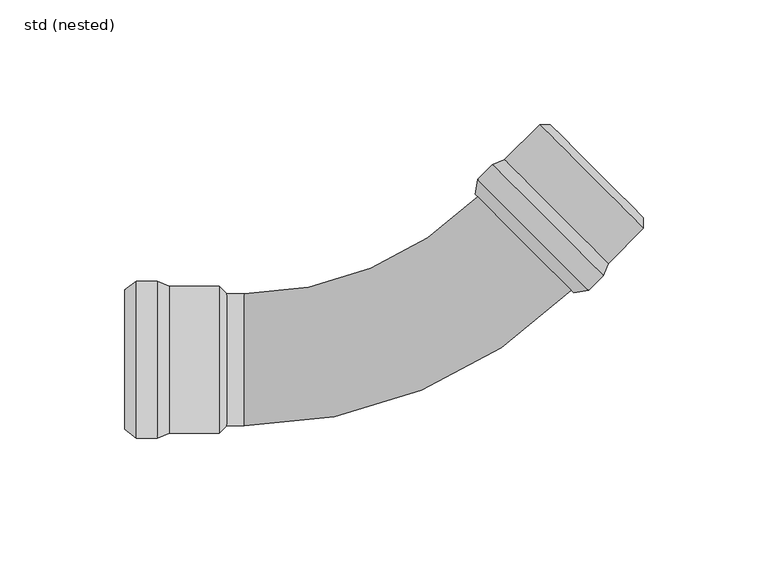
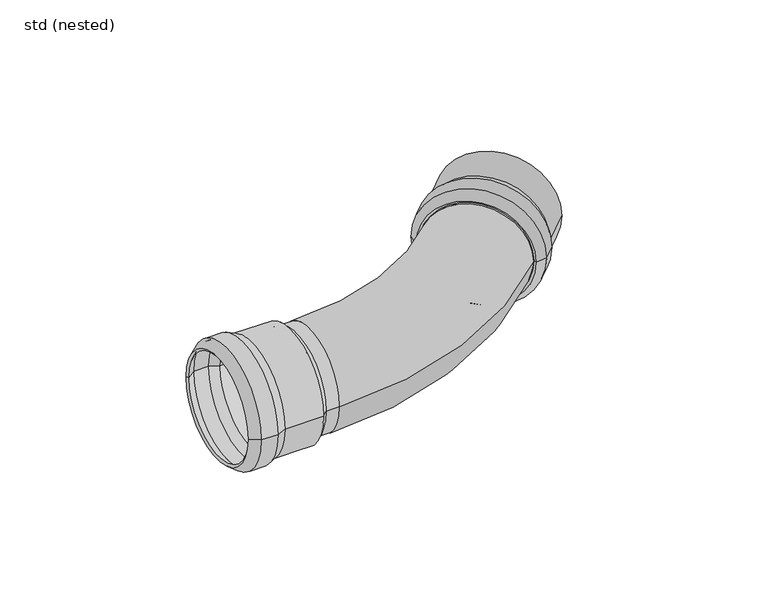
"""IFC4 building model written with IfcOpenShell, lengths in millimetres: pipe fitting geometry, ZZZ_do not use_PIF_ST_UN_GM-X pipe bend_ACO : std (nested)."""

from ifc_helpers import new_model, si_unit, point, frame, origin, place, context, project, spatial, polyline, circle_curve, ellipse_curve, trimmed, source, transform, mapped, element, save
from ifc_brep_helpers import plane_surface, cylinder_surface, revolved_surface, advanced_brep


def std_nested_dd60fd8d(model_context):
    return source(origin(), model_context, "Body", "AdvancedBrep", [
        advanced_brep(
        [(33.7255472, 78.2782056, 0.0), (78.2752356, 33.7324396, 0.0), (72.3358002, 27.7924812, 0.0), (27.7861118, 72.3382471, 0.0), (38.5337862, 80.2583162, 0.0), (80.2549229, 38.5408529, 0.0), (66.4668544, 26.872984, 0.0), (26.8671313, 66.4692204, 0.0), (52.6752991, 94.4010745, 0.0), (94.3964359, 52.6836112, 0.0), (56.9179398, 94.4012613, 0.0), (94.3962491, 56.9262518, 0.0), (54.7967129, 92.2798475, 0.0), (92.2750222, 54.8048381, 0.0), (39.3823703, 78.9855614, 0.0), (78.9820934, 39.389325, 0.0), (93.3357291, 53.7442246, 0.0), (53.736006, 93.340461, 0.0), (34.5741314, 77.0054507, 0.0), (77.0024061, 34.5809117, 0.0), (29.1924388, 71.6232843, 0.0), (71.6207135, 29.1987453, 0.0), (28.3490744, 66.2371756, 0.0), (66.2346792, 28.3549066, 0.0)],
        [
            (0, 1, circle_curve(frame((56.0003914, 56.0053226, 0.0), z_axis=(-0.7070756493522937, -0.7071379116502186, 0.0), x_axis=(0.7071379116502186, -0.7070756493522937, 0.0)), 31.5)),
            (1, 2),
            (2, 3, circle_curve(frame((50.060956, 50.0653641, 0.0), z_axis=(0.7070756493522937, 0.7071379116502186, 0.0), x_axis=(0.7071379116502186, -0.7070756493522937, 0.0)), 31.5)),
            (3, 0),
            (1, 0, circle_curve(frame((56.0003914, 56.0053226, 0.0), z_axis=(-0.7070756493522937, -0.7071379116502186, 0.0), x_axis=(0.7071379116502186, -0.7070756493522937, 0.0)), 31.5)),
            (3, 2, circle_curve(frame((50.060956, 50.0653641, 0.0), z_axis=(0.7070756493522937, 0.7071379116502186, 0.0), x_axis=(0.7071379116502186, -0.7070756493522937, 0.0)), 31.5)),
            (4, 5, circle_curve(frame((59.3943545, 59.3995846, 0.0), z_axis=(-0.7070756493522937, -0.7071379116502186, 0.0), x_axis=(0.7071379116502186, -0.7070756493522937, 0.0)), 29.5)),
            (5, 1),
            (0, 4),
            (5, 4, circle_curve(frame((59.3943545, 59.3995846, 0.0), z_axis=(-0.7070756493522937, -0.7071379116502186, 0.0), x_axis=(0.7071379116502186, -0.7070756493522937, 0.0)), 29.5)),
            (2, 6),
            (6, 7, circle_curve(frame((46.6669929, 46.6711022, 0.0), z_axis=(0.7070756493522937, 0.7071379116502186, 0.0), x_axis=(0.7071379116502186, -0.7070756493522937, 0.0)), 28.0)),
            (7, 3),
            (7, 6, circle_curve(frame((46.6669929, 46.6711022, 0.0), z_axis=(0.7070756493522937, 0.7071379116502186, 0.0), x_axis=(0.7071379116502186, -0.7070756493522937, 0.0)), 28.0)),
            (8, 9, circle_curve(frame((73.5358675, 73.5423428, 0.0), z_axis=(-0.7070756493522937, -0.7071379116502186, 0.0), x_axis=(0.7071379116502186, -0.7070756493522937, 0.0)), 29.5)),
            (9, 5),
            (4, 8),
            (9, 8, circle_curve(frame((73.5358675, 73.5423428, 0.0), z_axis=(-0.7070756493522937, -0.7071379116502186, 0.0), x_axis=(0.7071379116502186, -0.7070756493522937, 0.0)), 29.5)),
            (10, 11, circle_curve(frame((75.6570945, 75.6637565, 0.0), z_axis=(-0.7070756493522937, -0.7071379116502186, 0.0), x_axis=(0.7071379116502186, -0.7070756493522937, 0.0)), 26.5)),
            (11, 9),
            (8, 10),
            (11, 10, circle_curve(frame((75.6570945, 75.6637565, 0.0), z_axis=(-0.7070756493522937, -0.7071379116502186, 0.0), x_axis=(0.7071379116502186, -0.7070756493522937, 0.0)), 26.5)),
            (12, 13, circle_curve(frame((73.5358675, 73.5423428, 0.0), z_axis=(-0.7070756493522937, -0.7071379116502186, 0.0), x_axis=(0.7071379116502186, -0.7070756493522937, 0.0)), 26.5)),
            (13, 11),
            (10, 12),
            (13, 12, circle_curve(frame((73.5358675, 73.5423428, 0.0), z_axis=(-0.7070756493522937, -0.7071379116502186, 0.0), x_axis=(0.7071379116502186, -0.7070756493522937, 0.0)), 26.5)),
            (14, 15, circle_curve(frame((59.1822319, 59.1874432, 0.0), z_axis=(-0.7070756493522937, -0.7071379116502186, 0.0), x_axis=(0.7071379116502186, -0.7070756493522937, 0.0)), 28.0)),
            (15, 16),
            (16, 17, circle_curve(frame((73.5358675, 73.5423428, 0.0), z_axis=(0.7070756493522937, 0.7071379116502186, 0.0), x_axis=(0.7071379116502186, -0.7070756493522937, 0.0)), 28.0)),
            (17, 14),
            (15, 14, circle_curve(frame((59.1822319, 59.1874432, 0.0), z_axis=(-0.7070756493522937, -0.7071379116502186, 0.0), x_axis=(0.7071379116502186, -0.7070756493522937, 0.0)), 28.0)),
            (17, 16, circle_curve(frame((73.5358675, 73.5423428, 0.0), z_axis=(0.7070756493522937, 0.7071379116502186, 0.0), x_axis=(0.7071379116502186, -0.7070756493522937, 0.0)), 28.0)),
            (18, 19, circle_curve(frame((55.7882687, 55.7931812, 0.0), z_axis=(-0.7070756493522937, -0.7071379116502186, 0.0), x_axis=(0.7071379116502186, -0.7070756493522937, 0.0)), 30.0)),
            (19, 15),
            (14, 18),
            (19, 18, circle_curve(frame((55.7882687, 55.7931812, 0.0), z_axis=(-0.7070756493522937, -0.7071379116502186, 0.0), x_axis=(0.7071379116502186, -0.7070756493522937, 0.0)), 30.0)),
            (20, 21, circle_curve(frame((50.4065762, 50.4110148, 0.0), z_axis=(-0.7070756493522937, -0.7071379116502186, 0.0), x_axis=(0.7071379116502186, -0.7070756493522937, 0.0)), 30.0)),
            (21, 19),
            (18, 20),
            (21, 20, circle_curve(frame((50.4065762, 50.4110148, 0.0), z_axis=(-0.7070756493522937, -0.7071379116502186, 0.0), x_axis=(0.7071379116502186, -0.7070756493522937, 0.0)), 30.0)),
            (22, 23, circle_curve(frame((47.2918768, 47.2960411, 0.0), z_axis=(-0.7070756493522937, -0.7071379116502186, 0.0), x_axis=(0.7071379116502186, -0.7070756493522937, 0.0)), 26.7879887)),
            (23, 21),
            (20, 22),
            (23, 22, circle_curve(frame((47.2918768, 47.2960411, 0.0), z_axis=(-0.7070756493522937, -0.7071379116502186, 0.0), x_axis=(0.7071379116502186, -0.7070756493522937, 0.0)), 26.7879887)),
            (6, 23),
            (22, 7),
            (16, 13),
            (12, 17),
        ],
        [
            cylinder_surface(frame((49.0396476, 49.0439659, 0.0), z_axis=(0.7070756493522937, 0.7071379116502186, 0.0), x_axis=(0.7071379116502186, -0.7070756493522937, 0.0)), 31.5),
            revolved_surface(polyline([(78.2752356, 33.7324396, 0.0), (80.2549229, 38.5408529, 0.0)]), (49.0396476, 49.0439659, 0.0), (0.7070756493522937, 0.7071379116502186, 0.0)),
            revolved_surface(polyline([(66.4668544, 26.872984, 0.0), (72.3358002, 27.7924812, 0.0)]), (49.0396476, 49.0439659, 0.0), (0.7070756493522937, 0.7071379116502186, 0.0)),
            cylinder_surface(frame((49.0396476, 49.0439659, 0.0), z_axis=(0.7070756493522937, 0.7071379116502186, 0.0), x_axis=(0.7071379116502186, -0.7070756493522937, 0.0)), 29.5),
            revolved_surface(polyline([(94.3964359, 52.6836112, 0.0), (94.3962491, 56.9262518, 0.0)]), (49.0396476, 49.0439659, 0.0), (0.7070756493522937, 0.7071379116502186, 0.0)),
            revolved_surface(polyline([(94.39624912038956, 56.92625188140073, 0.0), (92.2750221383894, 54.80483811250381, 0.0)]), (49.0396476, 49.0439659, 0.0), (0.7070756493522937, 0.7071379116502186, 0.0)),
            revolved_surface(polyline([(93.33572903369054, 53.74422466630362, 0.0), (78.98209334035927, 39.38932504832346, 0.0)]), (49.0396476, 49.0439659, 0.0), (0.7070756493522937, 0.7071379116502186, 0.0)),
            revolved_surface(polyline([(78.9820934, 39.389325, 0.0), (77.0024061, 34.5809117, 0.0)]), (49.0396476, 49.0439659, 0.0), (0.7070756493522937, 0.7071379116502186, 0.0)),
            revolved_surface(polyline([(77.00240605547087, 34.580911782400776, 0.0), (71.6207134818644, 29.198745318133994, 0.0)]), (49.0396476, 49.0439659, 0.0), (0.7070756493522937, 0.7071379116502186, 0.0)),
            revolved_surface(polyline([(71.6207135, 29.1987453, 0.0), (66.2346792, 28.3549066, 0.0)]), (49.0396476, 49.0439659, 0.0), (0.7070756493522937, 0.7071379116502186, 0.0)),
            revolved_surface(polyline([(66.2346792, 28.3549066, 0.0), (66.4668544, 26.872984, 0.0)]), (49.0396476, 49.0439659, 0.0), (0.7070756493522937, 0.7071379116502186, 0.0)),
            plane_surface(frame((73.5358675, 73.5423428, 0.0), z_axis=(-0.7070756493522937, -0.7071379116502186, 0.0), x_axis=(0.7071379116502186, -0.7070756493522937, 0.0))),
        ],
        [
            (0, [[1, 2, 3, 4]]),
            (0, [[5, -4, 6, -2]]),
            (1, [[7, 8, -1, 9]]),
            (1, [[10, -9, -5, -8]]),
            (2, [[-3, 11, 12, 13]]),
            (2, [[-6, -13, 14, -11]]),
            (3, [[15, 16, -7, 17]]),
            (3, [[18, -17, -10, -16]]),
            (4, [[19, 20, -15, 21]]),
            (4, [[22, -21, -18, -20]]),
            (5, [[23, 24, -19, 25]]),
            (5, [[26, -25, -22, -24]]),
            (6, [[27, 28, 29, 30]]),
            (6, [[31, -30, 32, -28]]),
            (7, [[33, 34, -27, 35]]),
            (7, [[36, -35, -31, -34]]),
            (8, [[37, 38, -33, 39]]),
            (8, [[40, -39, -36, -38]]),
            (9, [[41, 42, -37, 43]]),
            (9, [[44, -43, -40, -42]]),
            (10, [[-12, 45, -41, 46]]),
            (10, [[-14, -46, -44, -45]]),
            (11, [[-29, 47, -23, 48]]),
            (11, [[-32, -48, -26, -47]]),
        ],
    ),
        advanced_brep(
        [(-100.8, 31.5, 0.0), (-100.8, -31.5, 0.0), (-109.2, -31.5, 0.0), (-109.2, 31.5, 0.0), (-96.0, 29.5, 0.0), (-96.0, -29.5, 0.0), (-114.0, -28.0, 0.0), (-114.0, 28.0, 0.0), (-76.0, 29.5, 0.0), (-76.0, -29.5, 0.0), (-73.0, 26.5, 0.0), (-73.0, -26.5, 0.0), (-76.0, 26.5, 0.0), (-76.0, -26.5, 0.0), (-96.3, 28.0, 0.0), (-96.3, -28.0, 0.0), (-76.0, -28.0, 0.0), (-76.0, 28.0, 0.0), (-101.1, 30.0, 0.0), (-101.1, -30.0, 0.0), (-108.7111977, 30.0, 0.0), (-108.7111977, -30.0, 0.0), (-113.1162418, 26.7879887, 0.0), (-113.1162418, -26.7879887, 0.0)],
        [
            (0, 1, circle_curve(frame((-100.8, 0.0, 0.0), z_axis=(-1.0, 0.0, 0.0), x_axis=(0.0, -1.0, 0.0)), 31.5)),
            (1, 2),
            (2, 3, circle_curve(frame((-109.2, 0.0, 0.0), z_axis=(1.0, 0.0, 0.0), x_axis=(0.0, -1.0, 0.0)), 31.5)),
            (3, 0),
            (1, 0, circle_curve(frame((-100.8, 0.0, 0.0), z_axis=(-1.0, 0.0, 0.0), x_axis=(0.0, -1.0, 0.0)), 31.5)),
            (3, 2, circle_curve(frame((-109.2, 0.0, 0.0), z_axis=(1.0, 0.0, 0.0), x_axis=(0.0, -1.0, 0.0)), 31.5)),
            (4, 5, circle_curve(frame((-96.0, 0.0, 0.0), z_axis=(-1.0, 0.0, 0.0), x_axis=(0.0, -1.0, 0.0)), 29.5)),
            (5, 1),
            (0, 4),
            (5, 4, circle_curve(frame((-96.0, 0.0, 0.0), z_axis=(-1.0, 0.0, 0.0), x_axis=(0.0, -1.0, 0.0)), 29.5)),
            (2, 6),
            (6, 7, circle_curve(frame((-114.0, 0.0, 0.0), z_axis=(1.0, 0.0, 0.0), x_axis=(0.0, -1.0, 0.0)), 28.0)),
            (7, 3),
            (7, 6, circle_curve(frame((-114.0, 0.0, 0.0), z_axis=(1.0, 0.0, 0.0), x_axis=(0.0, -1.0, 0.0)), 28.0)),
            (8, 9, circle_curve(frame((-76.0, 0.0, 0.0), z_axis=(-1.0, 0.0, 0.0), x_axis=(0.0, -1.0, 0.0)), 29.5)),
            (9, 5),
            (4, 8),
            (9, 8, circle_curve(frame((-76.0, 0.0, 0.0), z_axis=(-1.0, 0.0, 0.0), x_axis=(0.0, -1.0, 0.0)), 29.5)),
            (10, 11, circle_curve(frame((-73.0, 0.0, 0.0), z_axis=(-1.0, 0.0, 0.0), x_axis=(0.0, -1.0, 0.0)), 26.5)),
            (11, 9),
            (8, 10),
            (11, 10, circle_curve(frame((-73.0, 0.0, 0.0), z_axis=(-1.0, 0.0, 0.0), x_axis=(0.0, -1.0, 0.0)), 26.5)),
            (12, 13, circle_curve(frame((-76.0, 0.0, 0.0), z_axis=(-1.0, 0.0, 0.0), x_axis=(0.0, -1.0, 0.0)), 26.5)),
            (13, 11),
            (10, 12),
            (13, 12, circle_curve(frame((-76.0, 0.0, 0.0), z_axis=(-1.0, 0.0, 0.0), x_axis=(0.0, -1.0, 0.0)), 26.5)),
            (14, 15, circle_curve(frame((-96.3, 0.0, 0.0), z_axis=(-1.0, 0.0, 0.0), x_axis=(0.0, -1.0, 0.0)), 28.0)),
            (15, 16),
            (16, 17, circle_curve(frame((-76.0, 0.0, 0.0), z_axis=(1.0, 0.0, 0.0), x_axis=(0.0, -1.0, 0.0)), 28.0)),
            (17, 14),
            (15, 14, circle_curve(frame((-96.3, 0.0, 0.0), z_axis=(-1.0, 0.0, 0.0), x_axis=(0.0, -1.0, 0.0)), 28.0)),
            (17, 16, circle_curve(frame((-76.0, 0.0, 0.0), z_axis=(1.0, 0.0, 0.0), x_axis=(0.0, -1.0, 0.0)), 28.0)),
            (18, 19, circle_curve(frame((-101.1, 0.0, 0.0), z_axis=(-1.0, 0.0, 0.0), x_axis=(0.0, -1.0, 0.0)), 30.0)),
            (19, 15),
            (14, 18),
            (19, 18, circle_curve(frame((-101.1, 0.0, 0.0), z_axis=(-1.0, 0.0, 0.0), x_axis=(0.0, -1.0, 0.0)), 30.0)),
            (20, 21, circle_curve(frame((-108.7111977, 0.0, 0.0), z_axis=(-1.0, 0.0, 0.0), x_axis=(0.0, -1.0, 0.0)), 30.0)),
            (21, 19),
            (18, 20),
            (21, 20, circle_curve(frame((-108.7111977, 0.0, 0.0), z_axis=(-1.0, 0.0, 0.0), x_axis=(0.0, -1.0, 0.0)), 30.0)),
            (22, 23, circle_curve(frame((-113.1162418, 0.0, 0.0), z_axis=(-1.0, 0.0, 0.0), x_axis=(0.0, -1.0, 0.0)), 26.7879887)),
            (23, 21),
            (20, 22),
            (23, 22, circle_curve(frame((-113.1162418, 0.0, 0.0), z_axis=(-1.0, 0.0, 0.0), x_axis=(0.0, -1.0, 0.0)), 26.7879887)),
            (6, 23),
            (22, 7),
            (16, 13),
            (12, 17),
        ],
        [
            cylinder_surface(frame((-110.6444117, 0.0, 0.0), z_axis=(1.0, 0.0, 0.0), x_axis=(0.0, -1.0, 0.0)), 31.5),
            revolved_surface(polyline([(-100.8, -31.5, 0.0), (-96.0, -29.5, 0.0)]), (-110.6444117, 0.0, 0.0), (1.0, 0.0, 0.0)),
            revolved_surface(polyline([(-114.0, -28.0, 0.0), (-109.2, -31.5, 0.0)]), (-110.6444117, 0.0, 0.0), (1.0, 0.0, 0.0)),
            cylinder_surface(frame((-110.6444117, 0.0, 0.0), z_axis=(1.0, 0.0, 0.0), x_axis=(0.0, -1.0, 0.0)), 29.5),
            revolved_surface(polyline([(-76.0, -29.5, 0.0), (-73.0, -26.5, 0.0)]), (-110.6444117, 0.0, 0.0), (1.0, 0.0, 0.0)),
            revolved_surface(polyline([(-73.0, -26.5, 0.0), (-76.0, -26.5, 0.0)]), (-110.6444117, 0.0, 0.0), (1.0, 0.0, 0.0)),
            revolved_surface(polyline([(-76.0, -28.0, 0.0), (-96.3, -28.0, 0.0)]), (-110.6444117, 0.0, 0.0), (1.0, 0.0, 0.0)),
            revolved_surface(polyline([(-96.3, -28.0, 0.0), (-101.1, -30.0, 0.0)]), (-110.6444117, 0.0, 0.0), (1.0, 0.0, 0.0)),
            revolved_surface(polyline([(-101.1, -30.0, 0.0), (-108.7111977, -30.0, 0.0)]), (-110.6444117, 0.0, 0.0), (1.0, 0.0, 0.0)),
            revolved_surface(polyline([(-108.7111977, -30.0, 0.0), (-113.1162418, -26.7879887, 0.0)]), (-110.6444117, 0.0, 0.0), (1.0, 0.0, 0.0)),
            revolved_surface(polyline([(-113.1162418, -26.7879887, 0.0), (-114.0, -28.0, 0.0)]), (-110.6444117, 0.0, 0.0), (1.0, 0.0, 0.0)),
            plane_surface(frame((-76.0, 0.0, 0.0), z_axis=(-1.0, 0.0, 0.0), x_axis=(0.0, -1.0, 0.0))),
        ],
        [
            (0, [[1, 2, 3, 4]]),
            (0, [[5, -4, 6, -2]]),
            (1, [[7, 8, -1, 9]]),
            (1, [[10, -9, -5, -8]]),
            (2, [[-3, 11, 12, 13]]),
            (2, [[-6, -13, 14, -11]]),
            (3, [[15, 16, -7, 17]]),
            (3, [[18, -17, -10, -16]]),
            (4, [[19, 20, -15, 21]]),
            (4, [[22, -21, -18, -20]]),
            (5, [[23, 24, -19, 25]]),
            (5, [[26, -25, -22, -24]]),
            (6, [[27, 28, 29, 30]]),
            (6, [[31, -30, 32, -28]]),
            (7, [[33, 34, -27, 35]]),
            (7, [[36, -35, -31, -34]]),
            (8, [[37, 38, -33, 39]]),
            (8, [[40, -39, -36, -38]]),
            (9, [[41, 42, -37, 43]]),
            (9, [[44, -43, -40, -42]]),
            (10, [[-12, 45, -41, 46]]),
            (10, [[-14, -46, -44, -45]]),
            (11, [[-29, 47, -23, 48]]),
            (11, [[-32, -48, -26, -47]]),
        ],
    ),
        advanced_brep(
        [(27.9278382, 65.4086069, 0.0), (-66.0, 26.5, 0.0), (-66.0, -26.5, 0.0), (65.4061475, 27.9335975, 0.0), (46.6669929, 46.6711022, 26.5), (46.6669929, 46.6711022, -26.5), (-76.0, -26.5, 0.0), (-76.0, 26.5, 0.0), (92.2750222, 54.8048381, 0.0), (54.7967129, 92.2798475, 0.0)],
        [
            (0, 1, circle_curve(frame((-66.0, 159.3281749, 0.0), z_axis=(0.0, 0.0, -1.0), x_axis=(0.0, -1.0, 0.0)), 132.8281749)),
            (1, 2, circle_curve(frame((-66.0, 0.0, 0.0), z_axis=(1.0, 0.0, 0.0), x_axis=(0.0, 1.0, 0.0)), 26.5)),
            (2, 3, circle_curve(frame((-66.0, 159.3281749, 0.0), z_axis=(0.0, 0.0, 1.0), x_axis=(0.0, -1.0, 0.0)), 185.8281749)),
            (3, 4, circle_curve(frame((46.6669929, 46.6711022, 0.0), z_axis=(-0.7070756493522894, -0.7071379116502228, 0.0), x_axis=(-0.7071379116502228, 0.7070756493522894, 0.0)), 26.5)),
            (4, 0, circle_curve(frame((46.6669929, 46.6711022, 0.0), z_axis=(-0.7070756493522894, -0.7071379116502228, 0.0), x_axis=(-0.7071379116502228, 0.7070756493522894, 0.0)), 26.5)),
            (0, 5, circle_curve(frame((46.6669929, 46.6711022, 0.0), z_axis=(-0.7070756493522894, -0.7071379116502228, 0.0), x_axis=(-0.7071379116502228, 0.7070756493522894, 0.0)), 26.5)),
            (5, 3, circle_curve(frame((46.6669929, 46.6711022, 0.0), z_axis=(-0.7070756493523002, -0.707137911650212, 0.0), x_axis=(-0.707137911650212, 0.7070756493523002, 0.0)), 26.5)),
            (2, 1, circle_curve(frame((-66.0, 0.0, 0.0), z_axis=(1.0, 0.0, 0.0), x_axis=(0.0, 1.0, 0.0)), 26.5)),
            (6, 7, circle_curve(frame((-76.0, 0.0, 0.0), z_axis=(-1.0, 0.0, 0.0), x_axis=(0.0, 1.0, 0.0)), 26.5)),
            (7, 6, circle_curve(frame((-76.0, 0.0, 0.0), z_axis=(-1.0, 0.0, 0.0), x_axis=(0.0, 1.0, 0.0)), 26.5)),
            (7, 1),
            (2, 6),
            (8, 9, circle_curve(frame((73.5358675, 73.5423428, 0.0), z_axis=(0.7070756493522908, 0.7071379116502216, 0.0), x_axis=(-0.7071379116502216, 0.7070756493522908, 0.0)), 26.5)),
            (9, 8, circle_curve(frame((73.5358675, 73.5423428, 0.0), z_axis=(0.7070756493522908, 0.7071379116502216, 0.0), x_axis=(-0.7071379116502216, 0.7070756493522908, 0.0)), 26.5)),
            (9, 0),
            (3, 8),
        ],
        [
            revolved_surface(trimmed(ellipse_curve(frame((-66.0, 0.0, 0.0), z_axis=(-1.0, 0.0, 0.0), x_axis=(0.0, 1.0, 0.0)), 26.5, 26.5), [point((-66.0, -26.5, 0.0))], [point((-66.0, 26.5, 0.0))], True, "CARTESIAN"), (-66.0, 159.3281749, 0.0), (0.0, 0.0, 1.0)),
            revolved_surface(trimmed(ellipse_curve(frame((-66.0, 0.0, 0.0), z_axis=(-1.0, 0.0, 0.0), x_axis=(0.0, 1.0, 0.0)), 26.5, 26.5), [point((-66.0, 26.5, 0.0))], [point((-66.0, -26.5, 0.0))], True, "CARTESIAN"), (-66.0, 159.3281749, 0.0), (0.0, 0.0, 1.0)),
            plane_surface(frame((-76.0, 26.5, 0.0), z_axis=(-1.0, 0.0, 0.0), x_axis=(0.0, 0.0, -1.0))),
            cylinder_surface(frame((-76.0, 0.0, 0.0), z_axis=(1.0, 0.0, 0.0), x_axis=(0.0, 1.0, 0.0)), 26.5),
            plane_surface(frame((73.5358675, 73.5423428, 0.0), z_axis=(0.7070756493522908, 0.7071379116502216, 0.0), x_axis=(0.0, 0.0, 1.0))),
            cylinder_surface(frame((46.6669929, 46.6711022, 0.0), z_axis=(-0.7070756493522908, -0.7071379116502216, 0.0), x_axis=(-0.7071379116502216, 0.7070756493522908, 0.0)), 26.5),
        ],
        [
            (0, [[1, 2, 3, 4, 5]]),
            (1, [[-1, 6, 7, -3, 8]]),
            (2, [[9, 10]]),
            (3, [[-10, 11, -8, 12]]),
            (3, [[-9, -12, -2, -11]]),
            (4, [[13, 14]]),
            (5, [[-14, 15, -5, -4, 16]]),
            (5, [[-13, -16, -7, -6, -15]]),
        ],
    ),
    ])


if __name__ == "__main__":
    model = new_model("IFC4")
    model_context = context("Model", 3, world=origin())
    ifc_project = project(units=[si_unit("LENGTHUNIT", "METRE", prefix="MILLI")], contexts=[model_context])
    site = spatial("IfcSite", under=ifc_project)
    building = spatial("IfcBuilding", under=site)
    placement = place(None, origin())
    std_nested_shape = std_nested_dd60fd8d(model_context)
    element("IfcPipeFitting", 1, ObjectType="ZZZ_do not use_PIF_ST_UN_GM-X pipe bend_ACO : std (nested)", at=placement, inside=building, context=model_context, shape_type="MappedRepresentation", body=[
        mapped(std_nested_shape, transform((0.0, 0.0, 0.0), x_axis=(1.0, 0.0, 0.0), y_axis=(0.0, 1.0, 0.0), z_axis=(0.0, 0.0, 1.0))),
    ])
    save(model, "model.ifc")
